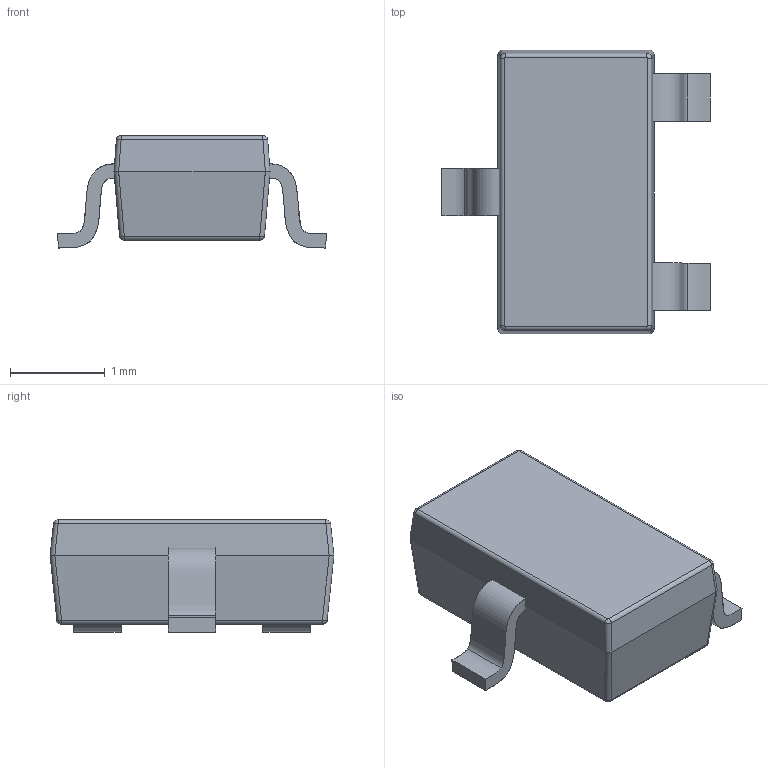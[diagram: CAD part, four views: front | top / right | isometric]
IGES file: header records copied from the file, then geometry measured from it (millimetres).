
Global section: file name: C:\Users\Mart\Documents\Libraries\3D Componenten\sot\SOT23-3.igs; native system: Rhinoceros ( Oct 24 2012 ); preprocessor: Trout Lake IGES 012 Oct 24 2012; author: MB2015; date: 151020.184516; units: millimetre
Bounding box: 2.84 x 3 x 1.18 mm (x, y, z)
Surface area: 23.7 mm2 (no closed solid volume)
Topology: 0 solids, 0 shells, 55 faces, 392 edges, 392 vertices
Faces by surface type: bspline 55
